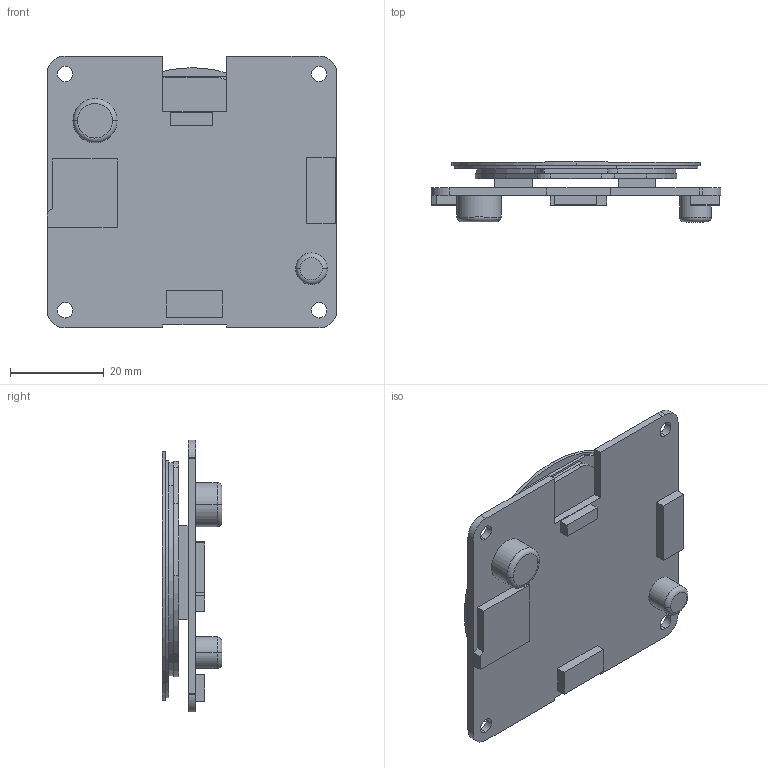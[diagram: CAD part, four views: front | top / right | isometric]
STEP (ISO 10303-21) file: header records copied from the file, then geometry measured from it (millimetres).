
FILE_DESCRIPTION (( 'STEP AP214' ), '1' );
FILE_NAME ('DMG40400C016-02WTC 3D.STEP', '2023-10-24T05:58:19', ( '' ), ( 'Microsoft' ), 'SwSTEP 2.0', 'SolidWorks 2017', '' );
FILE_SCHEMA (( 'AUTOMOTIVE_DESIGN' ));
Length unit declared in the file: millimetre
Products named in the file (5): 邐蹬; G40400C01602CV4A; T03711-CG-TPC016C0003F01V1裔啣馱最芞-230703; LCM_F160001(LI40400T016BA2504); DMG40400C016-02WTC 3D
Assembly tree (5 placements, depth 2):
  DMG40400C016-02WTC 3D
    LCM_F160001(LI40400T016BA2504)
    T03711-CG-TPC016C0003F01V1裔啣馱最芞-230703
    G40400C01602CV4A
    邐蹬  x2
Bounding box: 61.72 x 12.71 x 57.91 mm (x, y, z)
Volume: 13282.5 mm3; surface area: 16641.6 mm2
Topology: 5 solids, 5 shells, 158 faces, 410 edges, 272 vertices
Faces by surface type: cylinder 87, plane 67, torus 4
Entity records: 6646 total; most frequent: DIRECTION 900, CARTESIAN_POINT 822, ORIENTED_EDGE 796, EDGE_CURVE 398, AXIS2_PLACEMENT_3D 342, VERTEX_POINT 264, VECTOR 216, LINE 216
